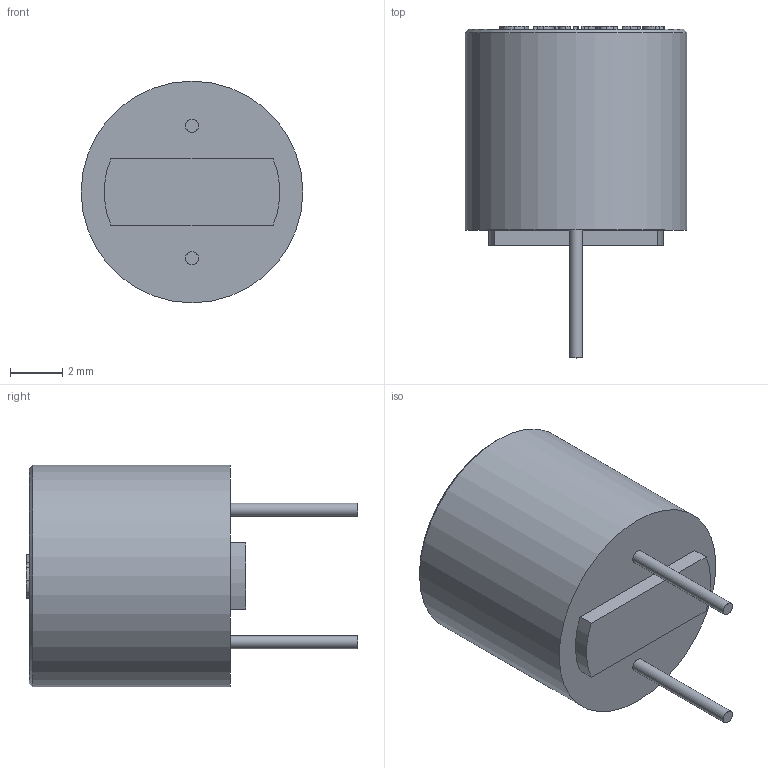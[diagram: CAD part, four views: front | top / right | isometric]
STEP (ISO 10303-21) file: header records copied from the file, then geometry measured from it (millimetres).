
FILE_DESCRIPTION(/* description */ (''),/* implementation_level */ '2;1');
FILE_NAME(/* name */ 'C:\Users\Hani\Desktop\work\FMS\FMS.stp',/* time_stamp */ '2021-08-22T11:10:44-07:00',/* author */ ('Hani'),/* organization */ (''),/* preprocessor_version */ 'ST-DEVELOPER v17',/* originating_system */ 'Autodesk Inventor 2019',/* authorisation */ '');
FILE_SCHEMA (('AUTOMOTIVE_DESIGN { 1 0 10303 214 3 1 1 }'));
Length unit declared in the file: inch
Products named in the file (1): TMR
Bounding box: 8.5 x 12.73 x 8.5 mm (x, y, z)
Volume: 449 mm3; surface area: 348.1 mm2
Topology: 1 solids, 1 shells, 149 faces, 395 edges, 263 vertices
Faces by surface type: plane 76, bspline 67, cylinder 5, cone 1
Full cylindrical faces by diameter (mm): 0.5 x2, 8.5 x1
Entity records: 5216 total; most frequent: CARTESIAN_POINT 1885, ORIENTED_EDGE 790, DIRECTION 438, EDGE_CURVE 395, VERTEX_POINT 263, LINE 250, VECTOR 250, EDGE_LOOP 164
